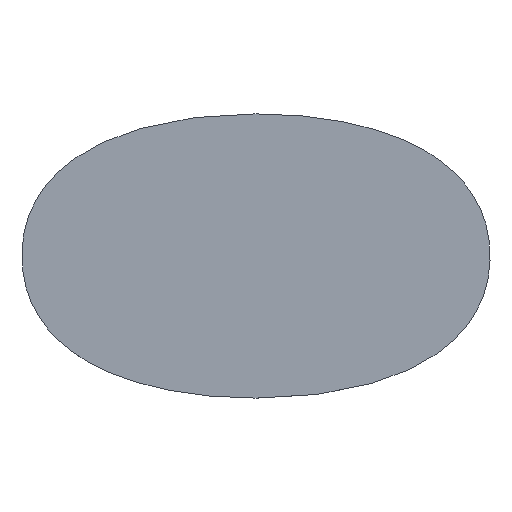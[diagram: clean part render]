
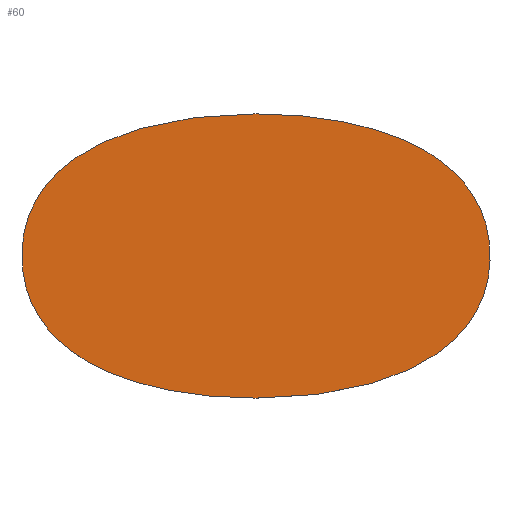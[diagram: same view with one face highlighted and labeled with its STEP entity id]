
A CAD part, top view. The second image highlights one B-rep face of the part: STEP entity #60.
In plain terms, the highlighted planar face has unit normal (0, 0, 1).
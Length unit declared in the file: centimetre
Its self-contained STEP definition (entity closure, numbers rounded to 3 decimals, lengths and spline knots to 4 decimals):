
#60=ADVANCED_FACE($,(#78),#245,.T.);
#78=FACE_OUTER_BOUND($,#96,.T.);
#96=EDGE_LOOP($,(#118,#119));
#118=ORIENTED_EDGE($,*,*,#187,.T.);
#119=ORIENTED_EDGE($,*,*,#188,.T.);
#187=EDGE_CURVE($,#221,#223,#255,.T.);
#188=EDGE_CURVE($,#223,#221,#256,.T.);
#221=VERTEX_POINT($,#427);
#223=VERTEX_POINT($,#429);
#245=PLANE($,#347);
#255=B_SPLINE_CURVE_WITH_KNOTS($,3,(#380,#381,#382,#383,#384,#385,#386),
.UNSPECIFIED.,.F.,.F.,(4,3,4),(0.,1.,2.),.UNSPECIFIED.);
#256=B_SPLINE_CURVE_WITH_KNOTS($,3,(#387,#388,#389,#390,#391,#392,#393),
.UNSPECIFIED.,.F.,.F.,(4,3,4),(2.,3.,4.),.UNSPECIFIED.);
#347=AXIS2_PLACEMENT_3D($,#411,#356,$);
#356=DIRECTION($,(0.,0.,1.));
#380=CARTESIAN_POINT($,(73.7432,0.7488,31.7));
#381=CARTESIAN_POINT($,(112.4036,0.7488,31.7));
#382=CARTESIAN_POINT($,(143.7432,14.3707,31.7));
#383=CARTESIAN_POINT($,(143.7432,43.249,31.7));
#384=CARTESIAN_POINT($,(143.7432,72.1268,31.7));
#385=CARTESIAN_POINT($,(112.4036,85.7488,31.7));
#386=CARTESIAN_POINT($,(73.7432,85.7488,31.7));
#387=CARTESIAN_POINT($,(73.7432,85.7488,31.7));
#388=CARTESIAN_POINT($,(35.0828,85.7488,31.7));
#389=CARTESIAN_POINT($,(3.7432,72.1268,31.7));
#390=CARTESIAN_POINT($,(3.7432,43.249,31.7));
#391=CARTESIAN_POINT($,(3.7432,14.3707,31.7));
#392=CARTESIAN_POINT($,(35.0828,0.7488,31.7));
#393=CARTESIAN_POINT($,(73.7432,0.7488,31.7));
#411=CARTESIAN_POINT($,(2.3432,-0.1012,31.7));
#427=CARTESIAN_POINT($,(73.7432,0.7488,31.7));
#429=CARTESIAN_POINT($,(73.7432,85.7488,31.7));
